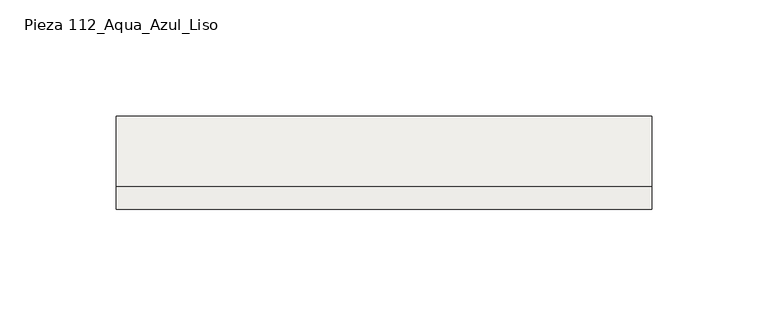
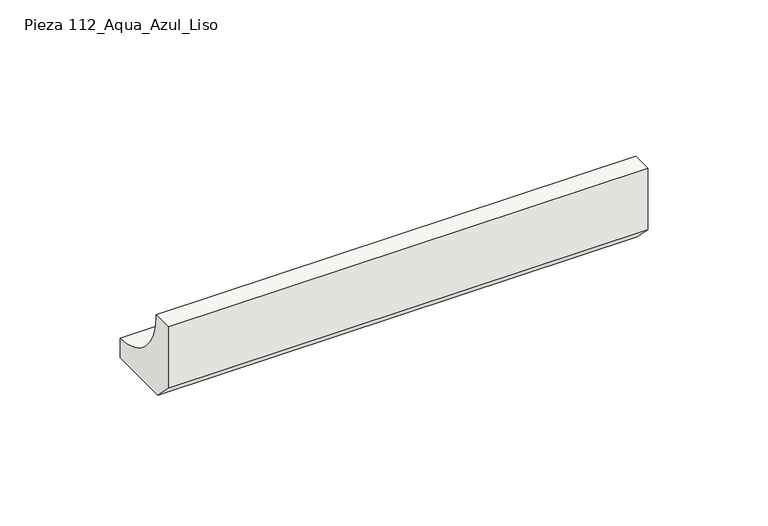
"""IFC4 building model written with IfcOpenShell, lengths in millimetres: slab geometry, ROSA GRES_112 : Pieza 112_Aqua_Azul_Liso."""

from ifc_helpers import new_model, si_unit, point, frame, frame_2d, origin, place, context, project, spatial, polyline, circle_curve, trimmed, segment, composite_curve, outline, extrude, source, transform, mapped, element, save


def pieza_112_aqua_azul_liso_4ddbef43(model_context):
    return source(origin(), model_context, "Body", "SweptSolid", [
        extrude(outline(composite_curve([segment(polyline([(0.0, 8.7114978), (0.0, 40.0), (9.9734114, 40.0)]), True, "CONTINUOUS"), segment(trimmed(circle_curve(frame_2d((39.9955547, 39.9955547)), 30.0221435), [point((9.9734114, 40.0))], [point((40.0, 9.9734114))], True, "CARTESIAN"), True, "CONTINUOUS"), segment(polyline([(40.0, 9.9734114), (40.0, 0.0), (8.7114978, 0.0), (0.0, 8.7114978)]), True, "CONTINUOUS")], self_intersect=False)), frame((0.0, 0.0, 0.0), z_axis=(1.0, 0.0, 0.0), x_axis=(0.0, 1.0, 0.0)), (0.0, 0.0, 1.0), 230.0),
    ])


if __name__ == "__main__":
    model = new_model("IFC4")
    model_context = context("Model", 3, world=origin())
    ifc_project = project(units=[si_unit("LENGTHUNIT", "METRE", prefix="MILLI")], contexts=[model_context])
    site = spatial("IfcSite", under=ifc_project)
    building = spatial("IfcBuilding", under=site)
    placement = place(None, origin())
    pieza_112_aqua_azul_liso_shape = pieza_112_aqua_azul_liso_4ddbef43(model_context)
    element("IfcSlab", 1, ObjectType="ROSA GRES_112 : Pieza 112_Aqua_Azul_Liso", at=placement, inside=building, context=model_context, shape_type="MappedRepresentation", body=[
        mapped(pieza_112_aqua_azul_liso_shape, transform((0.0, 0.0, 0.0), x_axis=(1.0, 0.0, 0.0), y_axis=(0.0, 1.0, 0.0), z_axis=(0.0, 0.0, 1.0))),
    ])
    save(model, "model.ifc")
